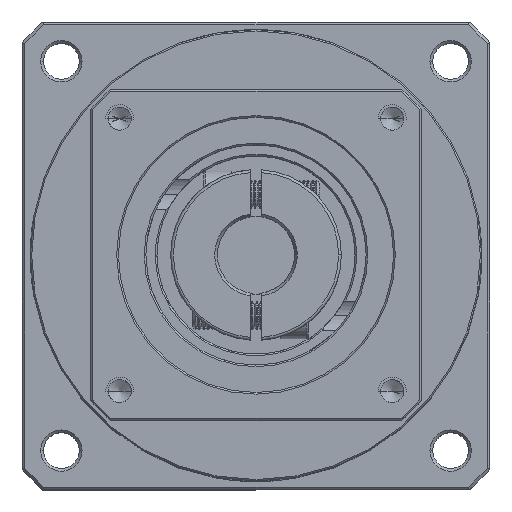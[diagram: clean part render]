
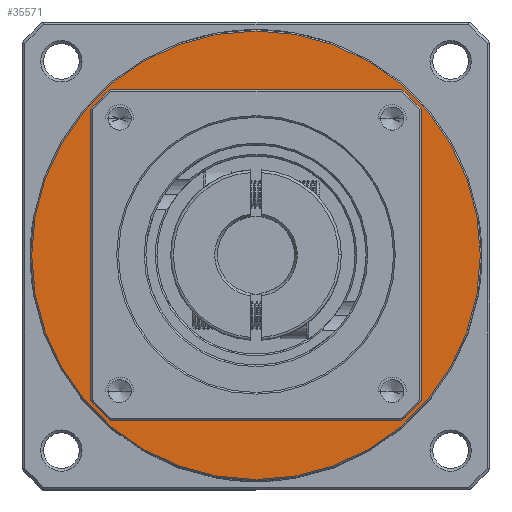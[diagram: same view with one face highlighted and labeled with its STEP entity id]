
A CAD part, top view. The second image highlights one B-rep face of the part: STEP entity #35571.
In plain terms, the highlighted planar face has unit normal (0, 0, 1).
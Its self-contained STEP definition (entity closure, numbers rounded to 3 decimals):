
#8662 = VERTEX_POINT ( 'NONE', #81143 ) ;
#10707 = AXIS2_PLACEMENT_3D ( 'NONE', #100408, #99532, #119164 ) ;
#18673 = CIRCLE ( 'NONE', #98036, 30. ) ;
#20449 = CARTESIAN_POINT ( 'NONE',  ( -92.065, 48.311, 1.867 ) ) ;
#21765 = DIRECTION ( 'NONE',  ( 1., 0., 0. ) ) ;
#25043 = CARTESIAN_POINT ( 'NONE',  ( -62.065, 48.311, 1.867 ) ) ;
#27869 = ORIENTED_EDGE ( 'NONE', *, *, #40833, .F. ) ;
#35500 = VERTEX_POINT ( 'NONE', #25043 ) ;
#35571 = ADVANCED_FACE ( 'NONE', ( #92409, #44635 ), #78099, .T. ) ;
#38024 = CIRCLE ( 'NONE', #43298, 30. ) ;
#40833 = EDGE_CURVE ( 'NONE', #35500, #114923, #38024, .T. ) ;
#43298 = AXIS2_PLACEMENT_3D ( 'NONE', #130041, #131780, #49917 ) ;
#44635 = FACE_OUTER_BOUND ( 'NONE', #132237, .T. ) ;
#46015 = CIRCLE ( 'NONE', #10707, 40.75 ) ;
#46870 = CARTESIAN_POINT ( 'NONE',  ( -122.065, 48.311, 1.867 ) ) ;
#49917 = DIRECTION ( 'NONE',  ( 1., 0., 0. ) ) ;
#56332 = CARTESIAN_POINT ( 'NONE',  ( -92.065, 48.311, 1.867 ) ) ;
#59391 = VERTEX_POINT ( 'NONE', #99765 ) ;
#62395 = DIRECTION ( 'NONE',  ( 0., 0., 1. ) ) ;
#70100 = EDGE_CURVE ( 'NONE', #8662, #59391, #87102, .T. ) ;
#74198 = EDGE_CURVE ( 'NONE', #114923, #35500, #18673, .T. ) ;
#75249 = ORIENTED_EDGE ( 'NONE', *, *, #130010, .T. ) ;
#76327 = DIRECTION ( 'NONE',  ( 1., 0., 0. ) ) ;
#77660 = DIRECTION ( 'NONE',  ( 1., 0., 0. ) ) ;
#78099 = PLANE ( 'NONE',  #81764 ) ;
#81143 = CARTESIAN_POINT ( 'NONE',  ( -51.315, 48.311, 1.867 ) ) ;
#81764 = AXIS2_PLACEMENT_3D ( 'NONE', #108859, #98135, #77660 ) ;
#85047 = ORIENTED_EDGE ( 'NONE', *, *, #74198, .F. ) ;
#87102 = CIRCLE ( 'NONE', #99953, 40.75 ) ;
#92409 = FACE_BOUND ( 'NONE', #115023, .T. ) ;
#97697 = DIRECTION ( 'NONE',  ( 0., 0., 1. ) ) ;
#98036 = AXIS2_PLACEMENT_3D ( 'NONE', #20449, #62395, #21765 ) ;
#98135 = DIRECTION ( 'NONE',  ( 0., 0., 1. ) ) ;
#99532 = DIRECTION ( 'NONE',  ( 0., 0., 1. ) ) ;
#99765 = CARTESIAN_POINT ( 'NONE',  ( -132.815, 48.311, 1.867 ) ) ;
#99953 = AXIS2_PLACEMENT_3D ( 'NONE', #56332, #97697, #76327 ) ;
#100408 = CARTESIAN_POINT ( 'NONE',  ( -92.065, 48.311, 1.867 ) ) ;
#108859 = CARTESIAN_POINT ( 'NONE',  ( -92.065, 48.311, 1.867 ) ) ;
#114923 = VERTEX_POINT ( 'NONE', #46870 ) ;
#115023 = EDGE_LOOP ( 'NONE', ( #85047, #27869 ) ) ;
#119164 = DIRECTION ( 'NONE',  ( 1., 0., 0. ) ) ;
#126149 = ORIENTED_EDGE ( 'NONE', *, *, #70100, .T. ) ;
#130010 = EDGE_CURVE ( 'NONE', #59391, #8662, #46015, .T. ) ;
#130041 = CARTESIAN_POINT ( 'NONE',  ( -92.065, 48.311, 1.867 ) ) ;
#131780 = DIRECTION ( 'NONE',  ( 0., 0., 1. ) ) ;
#132237 = EDGE_LOOP ( 'NONE', ( #75249, #126149 ) ) ;
